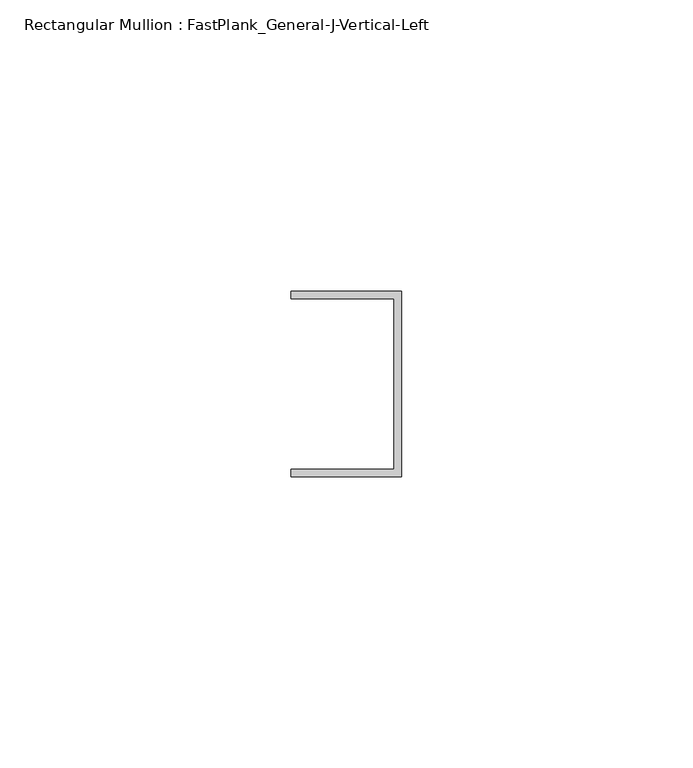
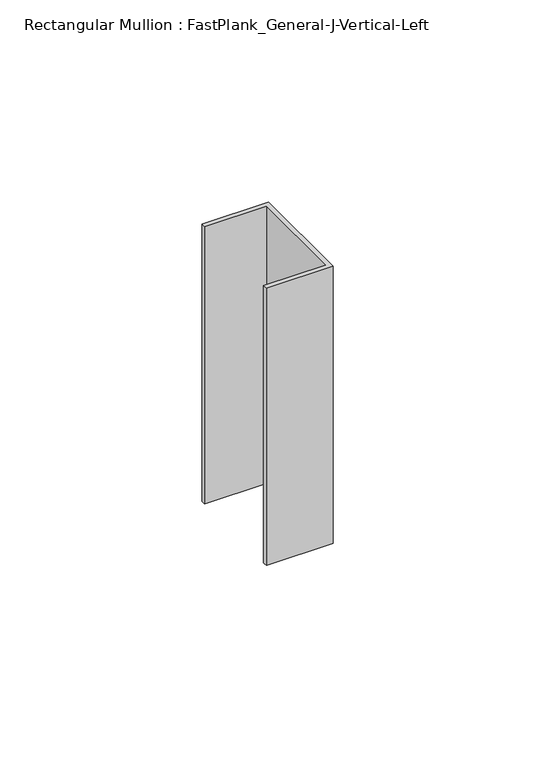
"""IFC4 building model written with IfcOpenShell, lengths in millimetres: member geometry, Rectangular Mullion : FastPlank_General-J-Vertical-Left."""

from ifc_helpers import new_model, si_unit, frame, origin, place, context, project, spatial, polyline, outline, extrude, source, transform, mapped, element, save


def rectangular_mullion_fastplank_general_j_vertical_left_96186454(model_context):
    return source(origin(), model_context, "Body", "SweptSolid", [
        extrude(outline(polyline([(0.0, -10.2620691), (-19.05, -10.2620691), (-19.05, -8.9620717), (-1.3000189, -8.9620717), (-1.3000189, 20.3412717), (-19.05, 20.3412717), (-19.05, 21.6412691), (0.0, 21.6412691), (0.0, -10.2620691)])), frame((0.0, 0.0, -83.8500189), z_axis=(0.0, 0.0, 1.0), x_axis=(1.0, 0.0, 0.0)), (0.0, 0.0, 1.0), 83.8500189),
    ])


if __name__ == "__main__":
    model = new_model("IFC4")
    model_context = context("Model", 3, world=origin())
    ifc_project = project(units=[si_unit("LENGTHUNIT", "METRE", prefix="MILLI")], contexts=[model_context])
    site = spatial("IfcSite", under=ifc_project)
    building = spatial("IfcBuilding", under=site)
    placement = place(None, origin())
    rectangular_mullion_fastplank_general_j_vertical_left_shape = rectangular_mullion_fastplank_general_j_vertical_left_96186454(model_context)
    element("IfcMember", 1, ObjectType="Rectangular Mullion : FastPlank_General-J-Vertical-Left", at=placement, inside=building, context=model_context, shape_type="MappedRepresentation", body=[
        mapped(rectangular_mullion_fastplank_general_j_vertical_left_shape, transform((0.0, 0.0, 0.0), x_axis=(1.0, 0.0, 0.0), y_axis=(0.0, 1.0, 0.0), z_axis=(0.0, 0.0, 1.0))),
    ])
    save(model, "model.ifc")
